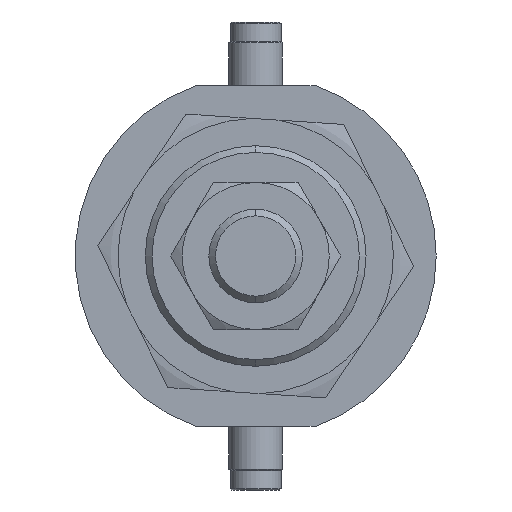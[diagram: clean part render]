
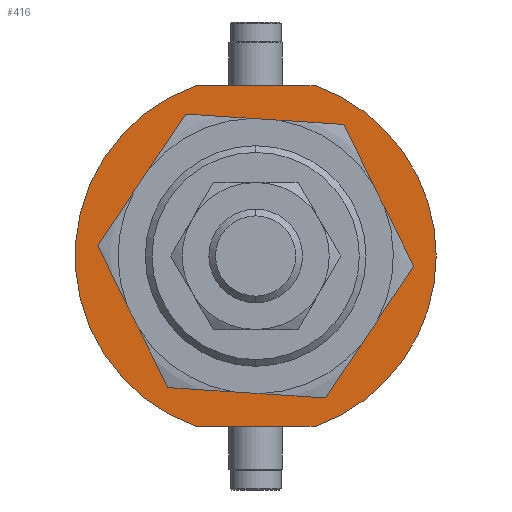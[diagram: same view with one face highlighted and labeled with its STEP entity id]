
A CAD part, left-side view. The second image highlights one B-rep face of the part: STEP entity #416.
In plain terms, the highlighted planar face has unit normal (-1, 0, 0) as drawn and (0, 1, 0) by its records, which use the part's own axes.
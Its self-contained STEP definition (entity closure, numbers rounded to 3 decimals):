
#49 = DIRECTION ( 'NONE',  ( 0., 0., 1. ) ) ;
#67 = ORIENTED_EDGE ( 'NONE', *, *, #1151, .T. ) ;
#115 = CARTESIAN_POINT ( 'NONE',  ( 0., 4.5, 0. ) ) ;
#127 = VERTEX_POINT ( 'NONE', #2830 ) ;
#145 = ORIENTED_EDGE ( 'NONE', *, *, #4253, .T. ) ;
#165 = CARTESIAN_POINT ( 'NONE',  ( 25.5, 4.5, 8.874 ) ) ;
#200 = VERTEX_POINT ( 'NONE', #2835 ) ;
#310 = VERTEX_POINT ( 'NONE', #3742 ) ;
#416 = ADVANCED_FACE ( 'NONE', ( #1569, #2997 ), #1859, .T. ) ;
#422 = VECTOR ( 'NONE', #2637, 1000. ) ;
#441 = DIRECTION ( 'NONE',  ( 0., 1., 0. ) ) ;
#489 = CARTESIAN_POINT ( 'NONE',  ( 25.5, 4.5, -8.874 ) ) ;
#500 = AXIS2_PLACEMENT_3D ( 'NONE', #2465, #1055, #49 ) ;
#561 = LINE ( 'NONE', #489, #3669 ) ;
#570 = CIRCLE ( 'NONE', #3013, 27. ) ;
#579 = DIRECTION ( 'NONE',  ( 0., 0., 1. ) ) ;
#606 = DIRECTION ( 'NONE',  ( 0., 0., 1. ) ) ;
#702 = EDGE_CURVE ( 'NONE', #127, #310, #570, .T. ) ;
#783 = AXIS2_PLACEMENT_3D ( 'NONE', #956, #441, #3912 ) ;
#882 = EDGE_CURVE ( 'NONE', #2193, #200, #561, .T. ) ;
#949 = EDGE_CURVE ( 'NONE', #3628, #1606, #1492, .T. ) ;
#956 = CARTESIAN_POINT ( 'NONE',  ( 0., 4.5, 0. ) ) ;
#1054 = EDGE_LOOP ( 'NONE', ( #4224, #4276 ) ) ;
#1055 = DIRECTION ( 'NONE',  ( 0., 1., 0. ) ) ;
#1151 = EDGE_CURVE ( 'NONE', #1894, #127, #3079, .T. ) ;
#1233 = CARTESIAN_POINT ( 'NONE',  ( -25.5, 4.5, -8.874 ) ) ;
#1268 = EDGE_CURVE ( 'NONE', #1606, #3628, #2919, .T. ) ;
#1471 = AXIS2_PLACEMENT_3D ( 'NONE', #3467, #4172, #2352 ) ;
#1492 = CIRCLE ( 'NONE', #2140, 16.5 ) ;
#1569 = FACE_BOUND ( 'NONE', #1054, .T. ) ;
#1606 = VERTEX_POINT ( 'NONE', #3057 ) ;
#1783 = AXIS2_PLACEMENT_3D ( 'NONE', #1874, #3908, #579 ) ;
#1830 = CARTESIAN_POINT ( 'NONE',  ( 0., 4.5, 0. ) ) ;
#1859 = PLANE ( 'NONE',  #1471 ) ;
#1874 = CARTESIAN_POINT ( 'NONE',  ( 0., 4.5, 0. ) ) ;
#1894 = VERTEX_POINT ( 'NONE', #2840 ) ;
#1945 = ORIENTED_EDGE ( 'NONE', *, *, #882, .T. ) ;
#2001 = CIRCLE ( 'NONE', #500, 27. ) ;
#2029 = CIRCLE ( 'NONE', #1783, 27. ) ;
#2140 = AXIS2_PLACEMENT_3D ( 'NONE', #1830, #2860, #606 ) ;
#2193 = VERTEX_POINT ( 'NONE', #165 ) ;
#2319 = DIRECTION ( 'NONE',  ( 0., 0., 1. ) ) ;
#2344 = CARTESIAN_POINT ( 'NONE',  ( 0., 4.5, -16.5 ) ) ;
#2352 = DIRECTION ( 'NONE',  ( 0., 0., 1. ) ) ;
#2465 = CARTESIAN_POINT ( 'NONE',  ( 0., 4.5, 0. ) ) ;
#2637 = DIRECTION ( 'NONE',  ( 0., 0., 1. ) ) ;
#2709 = EDGE_LOOP ( 'NONE', ( #145, #67, #3333, #2814, #1945 ) ) ;
#2814 = ORIENTED_EDGE ( 'NONE', *, *, #3388, .T. ) ;
#2830 = CARTESIAN_POINT ( 'NONE',  ( -25.5, 4.5, 8.874 ) ) ;
#2835 = CARTESIAN_POINT ( 'NONE',  ( 25.5, 4.5, -8.874 ) ) ;
#2840 = CARTESIAN_POINT ( 'NONE',  ( -25.5, 4.5, -8.874 ) ) ;
#2860 = DIRECTION ( 'NONE',  ( 0., 1., 0. ) ) ;
#2919 = CIRCLE ( 'NONE', #783, 16.5 ) ;
#2997 = FACE_OUTER_BOUND ( 'NONE', #2709, .T. ) ;
#3013 = AXIS2_PLACEMENT_3D ( 'NONE', #115, #3101, #2319 ) ;
#3057 = CARTESIAN_POINT ( 'NONE',  ( 0., 4.5, 16.5 ) ) ;
#3079 = LINE ( 'NONE', #1233, #422 ) ;
#3101 = DIRECTION ( 'NONE',  ( 0., 1., 0. ) ) ;
#3333 = ORIENTED_EDGE ( 'NONE', *, *, #702, .T. ) ;
#3388 = EDGE_CURVE ( 'NONE', #310, #2193, #2001, .T. ) ;
#3467 = CARTESIAN_POINT ( 'NONE',  ( 0., 4.5, 0. ) ) ;
#3628 = VERTEX_POINT ( 'NONE', #2344 ) ;
#3669 = VECTOR ( 'NONE', #3886, 1000. ) ;
#3742 = CARTESIAN_POINT ( 'NONE',  ( 0., 4.5, 27. ) ) ;
#3886 = DIRECTION ( 'NONE',  ( 0., 0., -1. ) ) ;
#3908 = DIRECTION ( 'NONE',  ( 0., 1., 0. ) ) ;
#3912 = DIRECTION ( 'NONE',  ( 0., 0., 1. ) ) ;
#4172 = DIRECTION ( 'NONE',  ( 0., 1., 0. ) ) ;
#4224 = ORIENTED_EDGE ( 'NONE', *, *, #1268, .F. ) ;
#4253 = EDGE_CURVE ( 'NONE', #200, #1894, #2029, .T. ) ;
#4276 = ORIENTED_EDGE ( 'NONE', *, *, #949, .F. ) ;
